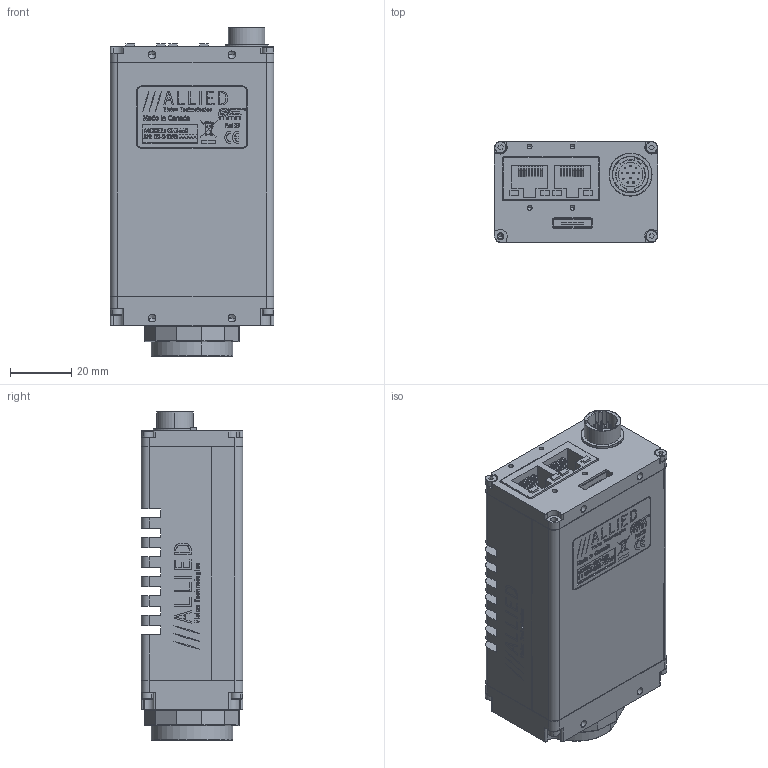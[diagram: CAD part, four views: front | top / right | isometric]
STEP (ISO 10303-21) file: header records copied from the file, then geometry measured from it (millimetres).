
FILE_DESCRIPTION (( 'STEP AP214' ), '1' );
FILE_NAME ('GX1660_new.STEP', '2013-07-30T22:17:13', ( '' ), ( '' ), 'SwSTEP 2.0', 'SolidWorks 2013', '' );
FILE_SCHEMA (( 'AUTOMOTIVE_DESIGN' ));
Length unit declared in the file: millimetre
Products named in the file (22): 100172B - GX BODY ASSY-THERMAL; 110100B-GX TOP COVER-THERMAL_Finished; 200114A-GX MAIN PCBA; 260043-HALO HFJ12-1G16ER-L12RL; 110099B-GX BOTTOM COVER-THERMAL_Finished; 100171A - GX BACK ASSY; 110097A-GX BACK PLATE; 260034-HIROSE HR10A-10R-12PB; 200115A-GX POWER PCBA; 260048-HIROSE 3260-8S3; 100167A - GX1660 FRONT ASSY; 140061-SCREW SKT CAP M2x8 SS; 220139-KODAK KAI-02050-ABA; 740102B-GX SERIES LABEL; KODAK KAI-02050 BODY; KODAK KAI-02050 WINDOW; GX1660_new; 110031A-B EC-CCD LOCKING RING; 110098A-GX FRONT PLATE; 110103A-GX CCD GASKET; 110003AC-CV CMOUNT RING; 740112B-GX1660 THERMAL LABEL PRINT
Assembly tree (27 placements, depth 4):
  GX1660_new
    740102B-GX SERIES LABEL
    140061-SCREW SKT CAP M2x8 SS  x4
    100172B - GX BODY ASSY-THERMAL
      200115A-GX POWER PCBA
        260048-HIROSE 3260-8S3
      140061-SCREW SKT CAP M2x8 SS  x3
      100171A - GX BACK ASSY
        260034-HIROSE HR10A-10R-12PB
        110097A-GX BACK PLATE
      110099B-GX BOTTOM COVER-THERMAL_Finished
      200114A-GX MAIN PCBA
        260043-HALO HFJ12-1G16ER-L12RL
      110100B-GX TOP COVER-THERMAL_Finished
    740112B-GX1660 THERMAL LABEL PRINT
    100167A - GX1660 FRONT ASSY
      110003AC-CV CMOUNT RING
      110103A-GX CCD GASKET
      110098A-GX FRONT PLATE
      110031A-B EC-CCD LOCKING RING
      220139-KODAK KAI-02050-ABA
        KODAK KAI-02050 WINDOW
        KODAK KAI-02050 BODY
Bounding box: 53.39 x 33.02 x 107.14 mm (x, y, z)
Volume: 79200.9 mm3; surface area: 71518.9 mm2
Topology: 65 solids, 65 shells, 4072 faces, 10550 edges, 6860 vertices
Faces by surface type: plane 2226, bspline 899, cylinder 707, cone 240
Entity records: 197842 total; most frequent: CARTESIAN_POINT 60968, ORIENTED_EDGE 20408, DIRECTION 16152, EDGE_CURVE 10204, VECTOR 6894, LINE 6894, VERTEX_POINT 6716, AXIS2_PLACEMENT_3D 4629
